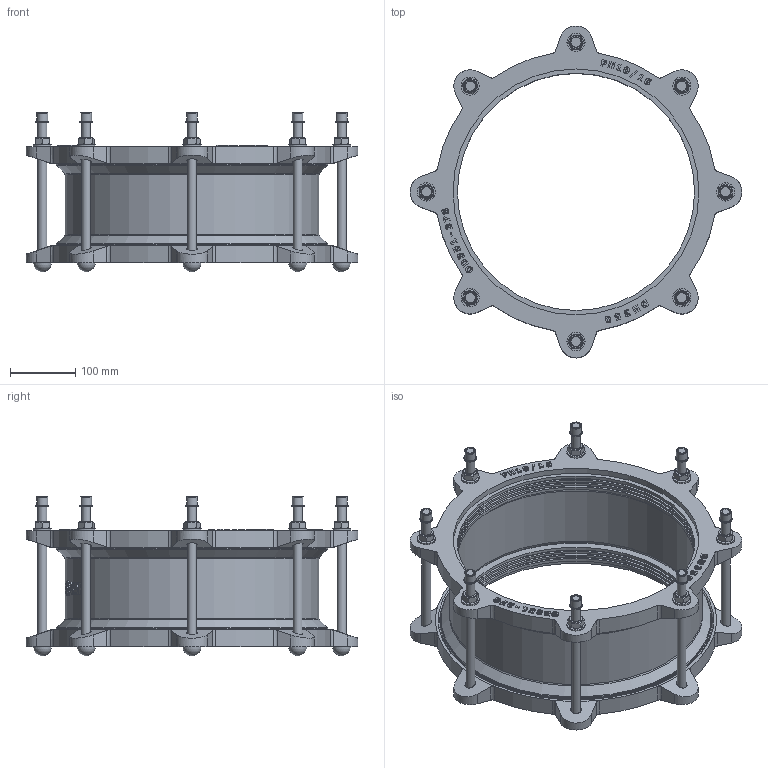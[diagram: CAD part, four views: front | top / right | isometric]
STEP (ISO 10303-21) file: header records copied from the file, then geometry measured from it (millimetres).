
FILE_DESCRIPTION(('STEP AP203'), '1');
FILE_NAME('Cîåäèíèòåëüíàÿ ìóôòà äëÿ æåñòêèõ òðóá', '', ('UNSPECIFIED'), ('UNSPECIFIED'), 'C3D Converter', 'C3D Toolkit', '');
FILE_SCHEMA(('CONFIG_CONTROL_DESIGN'));
Length unit declared in the file: millimetre
Assembly tree (37 placements, depth 2):
  (unnamed)
    (unnamed)
    (unnamed)  x8
    (unnamed)  x8
    (unnamed)  x8
    (unnamed)  x8
    (unnamed)
    (unnamed)
    (unnamed)  x2
Bounding box: 510 x 510 x 245.4 mm (x, y, z)
Volume: 4169238.5 mm3; surface area: 1152932 mm2
Topology: 41 solids, 41 shells, 1034 faces, 2576 edges, 1688 vertices
Faces by surface type: extrusion 386, plane 379, cylinder 173, cone 62, torus 26, sphere 8
Full cylindrical faces by diameter (mm): 14 x24, 15 x8, 16 x16, 16.8 x8, 19.6 x8, 23.29 x1, 28 x8, 364.5 x8, 371.25 x6, 378 x3, 384 x2, 390 x3, 417 x2, 420 x4
Entity records: 37284 total; most frequent: CARTESIAN_POINT 13156, ORIENTED_EDGE 4156, DIRECTION 2684, EDGE_CURVE 2078, VERTEX_POINT 1414, VECTOR 1332, B_SPLINE_CURVE_WITH_KNOTS 1265, EDGE_LOOP 974
